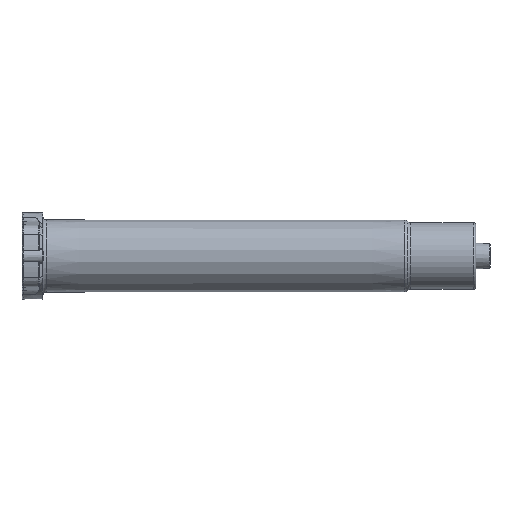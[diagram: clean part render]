
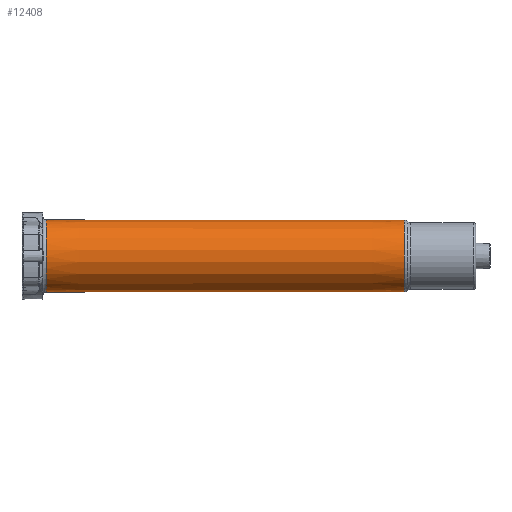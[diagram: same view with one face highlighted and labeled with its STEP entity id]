
A CAD part, left-side view. The second image highlights one B-rep face of the part: STEP entity #12408.
In plain terms, the highlighted conical face has half-angle 0.054 degrees and reference radius 5.717 mm.
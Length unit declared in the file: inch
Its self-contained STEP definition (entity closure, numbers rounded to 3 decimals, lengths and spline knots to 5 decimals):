
#618 = CARTESIAN_POINT ( 'NONE',  ( 0., 0.53921, -0.2251 ) ) ;
#638 = DIRECTION ( 'NONE',  ( 0., 0., 1. ) ) ;
#692 = CARTESIAN_POINT ( 'NONE',  ( 0., 0.5238, -0.22509 ) ) ;
#1624 = VERTEX_POINT ( 'NONE', #15928 ) ;
#2168 = EDGE_CURVE ( 'NONE', #10666, #16278, #2618, .T. ) ;
#2389 = VECTOR ( 'NONE', #16570, 39.37008 ) ;
#2618 = LINE ( 'NONE', #5549, #2389 ) ;
#3096 = VECTOR ( 'NONE', #11827, 39.37008 ) ;
#3369 = EDGE_CURVE ( 'NONE', #4451, #10666, #4555, .T. ) ;
#4451 = VERTEX_POINT ( 'NONE', #618 ) ;
#4536 = ORIENTED_EDGE ( 'NONE', *, *, #2168, .T. ) ;
#4555 = CIRCLE ( 'NONE', #12806, 0.2251 ) ;
#5061 = AXIS2_PLACEMENT_3D ( 'NONE', #12253, #13666, #16437 ) ;
#5305 = AXIS2_PLACEMENT_3D ( 'NONE', #7502, #8876, #638 ) ;
#5528 = ORIENTED_EDGE ( 'NONE', *, *, #8170, .F. ) ;
#5549 = CARTESIAN_POINT ( 'NONE',  ( 0., 0.5238, 0.22509 ) ) ;
#6269 = ORIENTED_EDGE ( 'NONE', *, *, #3369, .T. ) ;
#6334 = DIRECTION ( 'NONE',  ( 0., 1., 0. ) ) ;
#7232 = CARTESIAN_POINT ( 'NONE',  ( 0., 0.53921, 0.2251 ) ) ;
#7502 = CARTESIAN_POINT ( 'NONE',  ( 0., 2.79902, 0. ) ) ;
#8170 = EDGE_CURVE ( 'NONE', #4451, #1624, #10667, .T. ) ;
#8436 = CIRCLE ( 'NONE', #5305, 0.22723 ) ;
#8876 = DIRECTION ( 'NONE',  ( 0., -1., 0. ) ) ;
#10312 = EDGE_LOOP ( 'NONE', ( #5528, #6269, #4536, #13269 ) ) ;
#10666 = VERTEX_POINT ( 'NONE', #7232 ) ;
#10667 = LINE ( 'NONE', #692, #3096 ) ;
#11004 = CONICAL_SURFACE ( 'NONE', #5061, 0.22509, 0.001 ) ;
#11827 = DIRECTION ( 'NONE',  ( 0., 1., -0.001 ) ) ;
#12253 = CARTESIAN_POINT ( 'NONE',  ( 0., 0.5238, 0. ) ) ;
#12277 = EDGE_CURVE ( 'NONE', #16278, #1624, #8436, .T. ) ;
#12408 = ADVANCED_FACE ( 'NONE', ( #14296 ), #11004, .T. ) ;
#12806 = AXIS2_PLACEMENT_3D ( 'NONE', #13195, #6334, #14595 ) ;
#13195 = CARTESIAN_POINT ( 'NONE',  ( 0., 0.53921, 0. ) ) ;
#13269 = ORIENTED_EDGE ( 'NONE', *, *, #12277, .T. ) ;
#13666 = DIRECTION ( 'NONE',  ( 0., 1., 0. ) ) ;
#14296 = FACE_OUTER_BOUND ( 'NONE', #10312, .T. ) ;
#14595 = DIRECTION ( 'NONE',  ( 0., 0., 1. ) ) ;
#15043 = CARTESIAN_POINT ( 'NONE',  ( 0., 2.79902, 0.22723 ) ) ;
#15928 = CARTESIAN_POINT ( 'NONE',  ( 0., 2.79902, -0.22723 ) ) ;
#16278 = VERTEX_POINT ( 'NONE', #15043 ) ;
#16437 = DIRECTION ( 'NONE',  ( 0., 0., 1. ) ) ;
#16570 = DIRECTION ( 'NONE',  ( 0., 1., 0.001 ) ) ;
